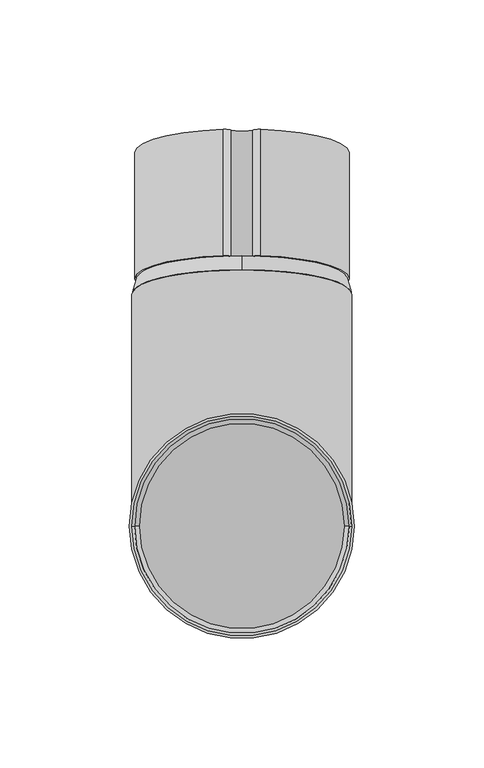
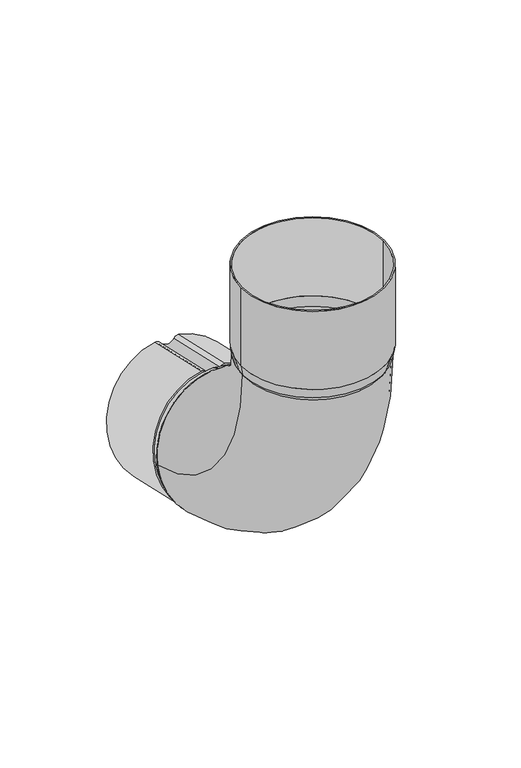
"""IFC4 building model written with IfcOpenShell, lengths in millimetres: proxy geometry, GROVIK_Downpipe_Elbow : N85_75°_Down."""

from ifc_helpers import new_model, si_unit, point, frame, frame_2d, origin, origin_with_axes, origin_2d, place, context, project, spatial, polyline, circle_curve, ellipse_curve, trimmed, segment, composite_curve, outline, extrude, source, transform, mapped, element, save
from ifc_brep_helpers import plane_surface, revolved_surface, advanced_brep


def generic_models_97db9f28(model_context):
    return source(origin(), model_context, "Body", "SolidModel", [
        extrude(outline(composite_curve([segment(trimmed(circle_curve(origin_2d(), 41.5), [point((-7.1689075, -40.8761148))], [point((-7.1689075, 40.8761149))], False, "CARTESIAN"), True, "CONTINUOUS"), segment(trimmed(circle_curve(frame_2d((-6.6504209, 37.8351932)), 3.0848069), [point((-7.1689075, 40.8761149))], [point((-4.2037022, 39.7139163))], False, "CARTESIAN"), True, "CONTINUOUS"), segment(trimmed(circle_curve(frame_2d((0.0, 42.9417466)), 5.3), [point((-4.2037022, 39.7139163))], [point((4.2058428, 39.716706))], True, "CARTESIAN"), True, "CONTINUOUS"), segment(trimmed(circle_curve(frame_2d((6.6465812, 37.8451476)), 3.0757007), [point((4.2058428, 39.716706))], [point((7.2, 40.8706496))], False, "CARTESIAN"), True, "CONTINUOUS"), segment(trimmed(circle_curve(origin_2d(), 41.5), [point((7.2, 40.8706496))], [point((7.2, -40.8706496))], False, "CARTESIAN"), True, "CONTINUOUS"), segment(trimmed(circle_curve(frame_2d((6.6465812, -37.8451476)), 3.0757007), [point((7.2, -40.8706496))], [point((4.2058428, -39.716706))], False, "CARTESIAN"), True, "CONTINUOUS"), segment(trimmed(circle_curve(frame_2d((0.0, -42.9417465)), 5.3), [point((4.2058428, -39.716706))], [point((-4.2037022, -39.7139162))], True, "CARTESIAN"), True, "CONTINUOUS"), segment(trimmed(circle_curve(frame_2d((-6.6504209, -37.8351931)), 3.0848069), [point((-4.2037022, -39.7139162))], [point((-7.1689075, -40.8761148))], False, "CARTESIAN"), True, "CONTINUOUS")], self_intersect=False), holes=[composite_curve([segment(trimmed(circle_curve(frame_2d((-6.6504209, -37.8351931)), 2.0848069), [point((-6.9987091, -39.8907015))], [point((-4.9968535, -39.1048917))], True, "CARTESIAN"), True, "CONTINUOUS"), segment(trimmed(circle_curve(frame_2d((0.0, -42.9417465)), 6.3), [point((-4.9968535, -39.1048917))], [point((4.999398, -39.1082077))], False, "CARTESIAN"), True, "CONTINUOUS"), segment(trimmed(circle_curve(frame_2d((6.6465812, -37.8451476)), 2.0757007), [point((4.999398, -39.1082077))], [point((7.0229886, -39.8864341))], True, "CARTESIAN"), True, "CONTINUOUS"), segment(trimmed(circle_curve(origin_2d(), 40.5), [point((7.0229886, -39.8864341))], [point((6.9882501, 39.8925352))], True, "CARTESIAN"), True, "CONTINUOUS"), segment(trimmed(circle_curve(frame_2d((6.6465812, 37.8451476)), 2.0757007), [point((6.9882501, 39.8925352))], [point((4.999398, 39.1082078))], True, "CARTESIAN"), True, "CONTINUOUS"), segment(trimmed(circle_curve(frame_2d((0.0, 42.9417466)), 6.3), [point((4.999398, 39.1082078))], [point((-4.9968535, 39.1048918))], False, "CARTESIAN"), True, "CONTINUOUS"), segment(trimmed(circle_curve(frame_2d((-6.6504209, 37.8351932)), 2.0848069), [point((-4.9968535, 39.1048918))], [point((-6.9987091, 39.8907016))], True, "CARTESIAN"), True, "CONTINUOUS"), segment(trimmed(circle_curve(origin_2d(), 40.5), [point((-6.9987091, 39.8907016))], [point((-6.9987091, -39.8907015))], True, "CARTESIAN"), True, "CONTINUOUS")], self_intersect=False)]), frame((0.0, 144.3279928, -124.5024853), z_axis=(0.0, -0.975499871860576, 0.21999999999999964), x_axis=(1.0, 0.0, 0.0)), (0.0, 0.0, 1.0), 50.0),
        extrude(outline(composite_curve([segment(trimmed(circle_curve(origin_2d(), 43.5), [point((-43.5, 0.0))], [point((43.5, 0.0))], False, "CARTESIAN"), True, "CONTINUOUS"), segment(trimmed(circle_curve(origin_2d(), 43.5), [point((43.5, 0.0))], [point((-43.5, 0.0))], False, "CARTESIAN"), True, "CONTINUOUS")], self_intersect=False), holes=[composite_curve([segment(trimmed(circle_curve(origin_2d(), 42.5), [point((-42.5, 0.0))], [point((42.5, 0.0))], True, "CARTESIAN"), True, "CONTINUOUS"), segment(trimmed(circle_curve(origin_2d(), 42.5), [point((42.5, 0.0))], [point((-42.5, 0.0))], True, "CARTESIAN"), True, "CONTINUOUS")], self_intersect=False)]), frame((0.0, 0.0, 6.0), z_axis=(0.0, 0.0, 1.0), x_axis=(1.0, 0.0, 0.0)), (0.0, 0.0, 1.0), 50.0),
        advanced_brep(
        [(-42.5, 0.0, 0.0), (42.5, 0.0, 0.0), (41.5, 0.0, 0.0), (-41.5, 0.0, 0.0), (-43.5, 0.0, 6.0), (43.5, 0.0, 6.0), (-42.5, 0.0, 6.0), (42.5, 0.0, 6.0)],
        [
            (0, 1, circle_curve(frame((0.0, 0.0, 0.0), z_axis=(0.0, 0.0, -1.0), x_axis=(-1.0, 0.0, 0.0)), 42.5)),
            (1, 0, circle_curve(frame((0.0, 0.0, 0.0), z_axis=(0.0, 0.0, -1.0), x_axis=(1.0, 0.0, 0.0)), 42.5)),
            (2, 3, circle_curve(frame((0.0, 0.0, 0.0), z_axis=(0.0, 0.0, 1.0), x_axis=(-1.0, 0.0, 0.0)), 41.5)),
            (3, 2, circle_curve(origin_with_axes(), 41.5)),
            (4, 5, circle_curve(frame((0.0, 0.0, 6.0), z_axis=(0.0, 0.0, 1.0), x_axis=(1.0, 0.0, 0.0)), 43.5)),
            (5, 4, circle_curve(frame((0.0, 0.0, 6.0), z_axis=(0.0, 0.0, 1.0), x_axis=(-1.0, 0.0, 0.0)), 43.5)),
            (6, 7, circle_curve(frame((0.0, 0.0, 6.0), z_axis=(0.0, 0.0, -1.0), x_axis=(-1.0, 0.0, 0.0)), 42.5)),
            (7, 6, circle_curve(frame((0.0, 0.0, 6.0), z_axis=(0.0, 0.0, -1.0), x_axis=(1.0, 0.0, 0.0)), 42.5)),
            (0, 4),
            (5, 1),
            (6, 3),
            (2, 7),
        ],
        [
            plane_surface(frame((0.0, 0.0, 0.0), z_axis=(0.0, 0.0, -1.0), x_axis=(0.0, 1.0, 0.0))),
            plane_surface(frame((0.0, 0.0, 6.0), z_axis=(0.0, 0.0, 1.0), x_axis=(0.0, 1.0, 0.0))),
            revolved_surface(polyline([(-42.5, 0.0, 0.0), (-43.5, 0.0, 6.0)]), (0.0, 0.0, -255.0), (0.0, 0.0, 1.0)),
            revolved_surface(polyline([(42.5, 0.0, 0.0), (43.5, 0.0, 6.0)]), (0.0, 0.0, -255.0), (0.0, 0.0, 1.0)),
            revolved_surface(polyline([(-42.5, 0.0, 6.0), (-41.5, 0.0, 0.0)]), (0.0, 0.0, -249.0), (0.0, 0.0, 1.0)),
        ],
        [
            (0, [[1, 2], [3, 4]]),
            (1, [[5, 6], [7, 8]]),
            (2, [[-1, 9, -6, 10]]),
            (3, [[-2, -10, -5, -9]]),
            (4, [[11, -3, 12, -7]]),
            (4, [[-11, -8, -12, -4]]),
        ],
    ),
        advanced_brep(
        [(0.0, 86.5989992, -153.20533), (0.0, 104.5069992, -73.7996405), (0.0, 104.2869992, -74.7751404), (0.0, 86.8189992, -152.2298302), (0.0, 80.35, -153.6412298), (0.0, 99.05, -70.7237407), (0.0, 80.57, -152.6657299), (0.0, 98.83, -71.6992406)],
        [
            (0, 1, circle_curve(frame((0.0, 95.5529992, -113.5024853), z_axis=(0.0, 0.9754998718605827, -0.2199999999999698), x_axis=(0.0, -0.21999999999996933, -0.9754998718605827)), 40.7)),
            (1, 0, circle_curve(frame((0.0, 95.5529992, -113.5024853), z_axis=(0.0, 0.9754998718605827, -0.2199999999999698), x_axis=(0.0, 0.21999999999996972, 0.9754998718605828)), 40.7)),
            (2, 3, circle_curve(frame((0.0, 95.5529992, -113.5024853), z_axis=(0.0, -0.9754998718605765, 0.21999999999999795), x_axis=(0.0, -0.21999999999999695, -0.9754998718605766)), 39.7)),
            (3, 2, circle_curve(frame((0.0, 95.5529992, -113.5024853), z_axis=(0.0, -0.9754998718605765, 0.21999999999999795), x_axis=(0.0, 0.21999999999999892, 0.9754998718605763)), 39.7)),
            (4, 5, circle_curve(frame((0.0, 89.7, -112.1824853), z_axis=(0.0, -0.9754998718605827, 0.2199999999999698), x_axis=(0.0, 0.21999999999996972, 0.9754998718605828)), 42.5)),
            (5, 4, circle_curve(frame((0.0, 89.7, -112.1824853), z_axis=(0.0, -0.9754998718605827, 0.2199999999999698), x_axis=(0.0, -0.21999999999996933, -0.9754998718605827)), 42.5)),
            (6, 7, circle_curve(frame((0.0, 89.7, -112.1824853), z_axis=(0.0, 0.9754998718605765, -0.21999999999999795), x_axis=(0.0, -0.21999999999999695, -0.9754998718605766)), 41.5)),
            (7, 6, circle_curve(frame((0.0, 89.7, -112.1824853), z_axis=(0.0, 0.9754998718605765, -0.21999999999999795), x_axis=(0.0, 0.21999999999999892, 0.9754998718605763)), 41.5)),
            (0, 4),
            (5, 1),
            (6, 3),
            (2, 7),
        ],
        [
            plane_surface(frame((0.0, 95.5529992, -113.5024853), z_axis=(0.0, 0.975499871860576, -0.2200000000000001), x_axis=(-1.0, 0.0, 0.0))),
            plane_surface(frame((0.0, 89.7, -112.1824853), z_axis=(0.0, -0.9754998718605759, 0.22000000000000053), x_axis=(-1.0, 0.0, 0.0))),
            revolved_surface(polyline([(0.0, 86.59899921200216, -153.2053300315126), (0.0, 80.35, -153.6412298)]), (0.0, 227.8958152, -143.3491519), (0.0, -0.9754998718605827, 0.2199999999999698)),
            revolved_surface(polyline([(0.0, 104.50699921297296, -73.79964045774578), (0.0, 99.0499999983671, -70.7237406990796)]), (0.0, 227.8958152, -143.3491519), (0.0, -0.9754998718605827, 0.2199999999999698)),
            revolved_surface(polyline([(0.0, 80.57, -152.6657299), (0.0, 86.81899922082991, -152.22983013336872)]), (0.0, 224.6441489, -142.6158186), (0.0, -0.9754998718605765, 0.21999999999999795)),
        ],
        [
            (0, [[1, 2], [3, 4]]),
            (1, [[5, 6], [7, 8]]),
            (2, [[-1, 9, -6, 10]]),
            (3, [[-2, -10, -5, -9]]),
            (4, [[11, -3, 12, -7]]),
            (4, [[-11, -8, -12, -4]]),
        ],
    ),
        advanced_brep(
        [(-40.7, 0.0, -6.0), (40.7, 0.0, -6.0), (-39.7, 0.0, -6.0), (39.7, 0.0, -6.0), (-42.5, 0.0, 0.0), (42.5, 0.0, 0.0), (41.5, 0.0, 0.0), (-41.5, 0.0, 0.0)],
        [
            (0, 1, circle_curve(frame((0.0, 0.0, -6.0), z_axis=(0.0, 0.0, -1.0), x_axis=(-1.0, 0.0, 0.0)), 40.7)),
            (1, 0, circle_curve(frame((0.0, 0.0, -6.0), z_axis=(0.0, 0.0, -1.0), x_axis=(1.0, 0.0, 0.0)), 40.7)),
            (2, 3, circle_curve(frame((0.0, 0.0, -6.0), z_axis=(0.0, 0.0, 1.0), x_axis=(1.0, 0.0, 0.0)), 39.7)),
            (3, 2, circle_curve(frame((0.0, 0.0, -6.0), z_axis=(0.0, 0.0, 1.0), x_axis=(-1.0, 0.0, 0.0)), 39.7)),
            (4, 5, circle_curve(origin_with_axes(), 42.5)),
            (5, 4, circle_curve(frame((0.0, 0.0, 0.0), z_axis=(0.0, 0.0, 1.0), x_axis=(-1.0, 0.0, 0.0)), 42.5)),
            (6, 7, circle_curve(frame((0.0, 0.0, 0.0), z_axis=(0.0, 0.0, -1.0), x_axis=(1.0, 0.0, 0.0)), 41.5)),
            (7, 6, circle_curve(frame((0.0, 0.0, 0.0), z_axis=(0.0, 0.0, -1.0), x_axis=(-1.0, 0.0, 0.0)), 41.5)),
            (1, 5),
            (4, 0),
            (6, 3),
            (2, 7),
        ],
        [
            plane_surface(frame((0.0, 0.0, -6.0), z_axis=(0.0, 0.0, -1.0), x_axis=(0.0, 1.0, 0.0))),
            plane_surface(frame((0.0, 0.0, 0.0), z_axis=(0.0, 0.0, 1.0), x_axis=(0.0, 1.0, 0.0))),
            revolved_surface(polyline([(40.70000000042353, 0.0, -6.0), (42.5, 0.0, 0.0)]), (0.0, 0.0, -141.6666667), (0.0, 0.0, 1.0)),
            revolved_surface(polyline([(-40.70000000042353, 0.0, -6.0), (-42.5, 0.0, 0.0)]), (0.0, 0.0, -141.6666667), (0.0, 0.0, 1.0)),
            revolved_surface(polyline([(41.5, 0.0, 0.0), (39.699999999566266, 0.0, -6.0)]), (0.0, 0.0, -138.3333333), (0.0, 0.0, 1.0)),
        ],
        [
            (0, [[1, 2], [3, 4]]),
            (1, [[5, 6], [7, 8]]),
            (2, [[-2, 9, -5, 10]]),
            (3, [[-1, -10, -6, -9]]),
            (4, [[11, -3, 12, -7]]),
            (4, [[-11, -8, -12, -4]]),
        ],
    ),
        advanced_brep(
        [(-42.5, 0.0, 0.0), (42.5, 0.0, 0.0), (-41.5, 0.0, 0.0), (41.5, 0.0, 0.0), (-42.5, 89.7, -112.1824853), (42.5, 89.7, -112.1824853), (-41.5, 89.7, -112.1824853), (41.5, 89.7, -112.1824853)],
        [
            (0, 1, circle_curve(origin_with_axes(), 42.5)),
            (1, 0, circle_curve(origin_with_axes(), 42.5)),
            (2, 3, circle_curve(frame((0.0, 0.0, 0.0), z_axis=(0.0, 0.0, -1.0), x_axis=(1.0, 0.0, 0.0)), 41.5)),
            (3, 2, circle_curve(frame((0.0, 0.0, 0.0), z_axis=(0.0, 0.0, -1.0), x_axis=(1.0, 0.0, 0.0)), 41.5)),
            (4, 5, circle_curve(frame((0.0, 89.7, -112.1824853), z_axis=(0.0, 0.975499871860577, -0.21999999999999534), x_axis=(1.0, 0.0, 0.0)), 42.5)),
            (5, 4, circle_curve(frame((0.0, 89.7, -112.1824853), z_axis=(0.0, 0.975499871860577, -0.21999999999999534), x_axis=(1.0, 0.0, 0.0)), 42.5)),
            (6, 7, circle_curve(frame((0.0, 89.7, -112.1824853), z_axis=(0.0, -0.975499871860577, 0.21999999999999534), x_axis=(1.0, 0.0, 0.0)), 41.5)),
            (7, 6, circle_curve(frame((0.0, 89.7, -112.1824853), z_axis=(0.0, -0.975499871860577, 0.21999999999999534), x_axis=(1.0, 0.0, 0.0)), 41.5)),
            (7, 3, circle_curve(frame((41.5, 115.0, 0.0), z_axis=(-1.0, 0.0, 0.0), x_axis=(0.0, -1.0, 0.0)), 115.0)),
            (2, 6, circle_curve(frame((-41.5, 115.0, 0.0), z_axis=(1.0, 0.0, 0.0), x_axis=(0.0, -1.0, 0.0)), 115.0)),
            (5, 1, circle_curve(frame((42.5, 115.0, 0.0), z_axis=(-1.0, 0.0, 0.0), x_axis=(0.0, -1.0, 0.0)), 115.0)),
            (0, 4, circle_curve(frame((-42.5, 115.0, 0.0), z_axis=(1.0, 0.0, 0.0), x_axis=(0.0, -1.0, 0.0)), 115.0)),
        ],
        [
            plane_surface(origin_with_axes()),
            plane_surface(frame((0.0, 89.7, -112.1824853), z_axis=(0.0, 0.975499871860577, -0.21999999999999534), x_axis=(1.0, 0.0, 0.0))),
            revolved_surface(trimmed(ellipse_curve(frame((0.0, 0.0, 0.0), z_axis=(0.0, 0.0, -1.0), x_axis=(1.0, 0.0, 0.0)), 41.5, 41.5), [point((-41.5, 0.0, 0.0))], [point((41.5, 0.0, 0.0))], True, "CARTESIAN"), (0.0, 115.0, 0.0), (1.0, 0.0, 0.0)),
            revolved_surface(trimmed(ellipse_curve(frame((0.0, 0.0, 0.0), z_axis=(0.0, 0.0, -1.0), x_axis=(1.0, 0.0, 0.0)), 41.5, 41.5), [point((41.5, 0.0, 0.0))], [point((-41.5, 0.0, 0.0))], True, "CARTESIAN"), (0.0, 115.0, 0.0), (1.0, 0.0, 0.0)),
            revolved_surface(trimmed(ellipse_curve(origin_with_axes(), 42.5, 42.5), [point((-42.5, 0.0, 0.0))], [point((42.5, 0.0, 0.0))], True, "CARTESIAN"), (0.0, 115.0, 0.0), (1.0, 0.0, 0.0)),
            revolved_surface(trimmed(ellipse_curve(origin_with_axes(), 42.5, 42.5), [point((42.5, 0.0, 0.0))], [point((-42.5, 0.0, 0.0))], True, "CARTESIAN"), (0.0, 115.0, 0.0), (1.0, 0.0, 0.0)),
        ],
        [
            (0, [[1, 2], [3, 4]]),
            (1, [[5, 6], [7, 8]]),
            (2, [[9, -3, 10, -8]]),
            (3, [[-10, -4, -9, -7]]),
            (4, [[11, -1, 12, -6]]),
            (5, [[-12, -2, -11, -5]]),
        ],
    ),
    ])


if __name__ == "__main__":
    model = new_model("IFC4")
    model_context = context("Model", 3, world=origin())
    ifc_project = project(units=[si_unit("LENGTHUNIT", "METRE", prefix="MILLI")], contexts=[model_context])
    site = spatial("IfcSite", under=ifc_project)
    building = spatial("IfcBuilding", under=site)
    placement = place(None, origin())
    generic_models_shape = generic_models_97db9f28(model_context)
    element("IfcBuildingElementProxy", 1, Name="GROVIK_Downpipe_Elbow : N85_75°_Down", ObjectType="GROVIK_Downpipe_Elbow : N85_75°_Down", at=placement, inside=building, context=model_context, shape_type="MappedRepresentation", body=[
        mapped(generic_models_shape, transform((0.0, 0.0, 0.0), x_axis=(1.0, 0.0, 0.0), y_axis=(0.0, 1.0, 0.0), z_axis=(0.0, 0.0, 1.0))),
    ])
    save(model, "model.ifc")
